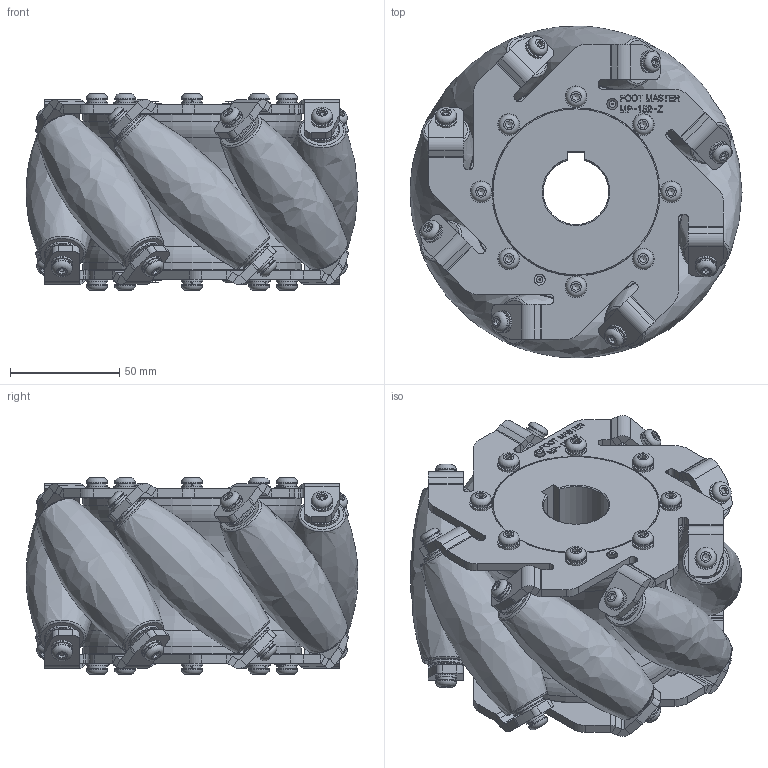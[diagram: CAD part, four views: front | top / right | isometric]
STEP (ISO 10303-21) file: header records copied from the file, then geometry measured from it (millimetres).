
FILE_DESCRIPTION(/* description */ (''),/* implementation_level */ '2;1');
FILE_NAME(/* name */ 'Y:\1.기술연구소\2.연구개발 진행중\122.Mecanum Wheel_2024.11.22\MECHANUM WHEEL MDWP-176-90\04. 전송파일\영업부\20250904\MP-152-Z-HUD.stp',/* time_stamp */ '2025-09-05T11:22:01+09:00',/* author */ ('장용하'),/* organization */ (''),/* preprocessor_version */ 'ST-DEVELOPER v18.1',/* originating_system */ 'Autodesk Inventor 2021',/* authorisation */ '');
FILE_SCHEMA (('AUTOMOTIVE_DESIGN { 1 0 10303 214 3 1 1 }'));
Products named in the file (1): MP-152-Z-HUD
Bounding box: 152 x 152 x 90.1 mm (x, y, z)
Volume: 969124.5 mm3; surface area: 152402.7 mm2
Topology: 1 solids, 1 shells, 2153 faces, 5926 edges, 3907 vertices
Faces by surface type: plane 991, bspline 608, cylinder 393, torus 99, cone 62
Full cylindrical faces by diameter (mm): 5 x36, 5.3 x32, 9.5 x32, 10 x32, 12 x16, 16 x16, 77 x2, 100 x2
Entity records: 70231 total; most frequent: CARTESIAN_POINT 18627, ORIENTED_EDGE 11780, DIRECTION 9256, EDGE_CURVE 5890, VERTEX_POINT 3907, AXIS2_PLACEMENT_3D 3280, LINE 2696, VECTOR 2696
